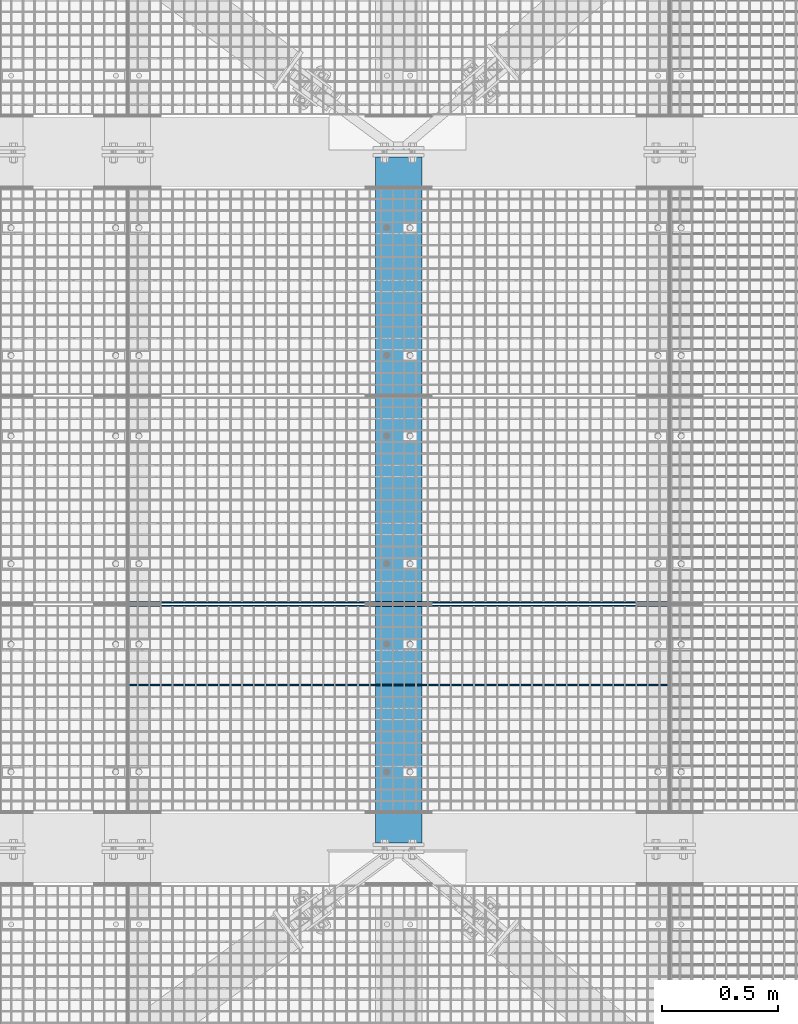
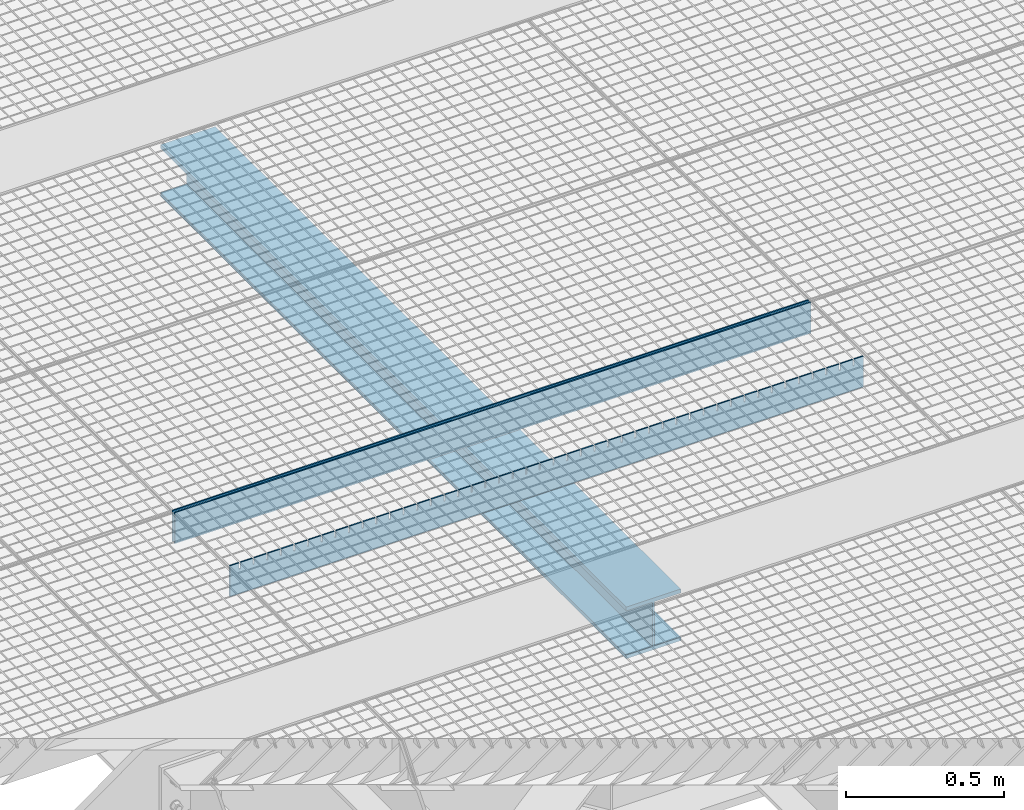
# One storey, part 352 of 1530: 4 beams.
"""IFC2X3 building model written with IfcOpenShell, lengths in millimetres."""

from ifc_helpers import new_model, si_unit, frame, origin_with_axes, place, context, subcontext, project, spatial, faceted_brep, material, type_object, element, save


model = new_model("IFC2X3")

# Units and contexts
model_context = context("Model", 3, precision=1e-05, world=origin_with_axes())
body_context = subcontext(model_context, "Body", "Model", "MODEL_VIEW")
ifc_project = project(units=[si_unit("LENGTHUNIT", "METRE", prefix="MILLI"), si_unit("AREAUNIT", "SQUARE_METRE"), si_unit("VOLUMEUNIT", "CUBIC_METRE"), si_unit("MASSUNIT", "GRAM", prefix="KILO"), si_unit("TIMEUNIT", "SECOND"), si_unit("PLANEANGLEUNIT", "RADIAN"), si_unit("SOLIDANGLEUNIT", "STERADIAN"), si_unit("THERMODYNAMICTEMPERATUREUNIT", "DEGREE_CELSIUS"), si_unit("LUMINOUSINTENSITYUNIT", "LUMEN")], contexts=[model_context])

# Site, building, storey
site_placement = place(None, origin_with_axes())
site = spatial("IfcSite", under=ifc_project, at=site_placement, Name="Brattvåg", CompositionType="ELEMENT")
building_placement = place(site_placement, origin_with_axes())
building = spatial("IfcBuilding", under=site, at=building_placement, Name="Undefined", CompositionType="ELEMENT")
storey_placement = place(building_placement, origin_with_axes())
storey = spatial("IfcBuildingStorey", under=building, at=storey_placement, Name="Undefined", CompositionType="ELEMENT", Elevation=0.0)

# Beams
ifc_material_1 = material(Name="STEEL/S355J2")
beam_type_1 = type_object("IfcBeamType", Name="120*5", PredefinedType="NOTDEFINED")
beam_1_placement = place(storey_placement, frame((5234.01317977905, 3702.99487304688, -59.9998626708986), z_axis=(0.0, 0.0, 1.0), x_axis=(-1.0, 1.99999855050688e-09, 0.0)))
element("IfcBeam", 1, at=beam_1_placement, inside=storey, type_object=beam_type_1, material=ifc_material_1, Name="GRATING", context=body_context, shape_type="Brep", body=[
    faceted_brep([(83.5790367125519, -2.50000000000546, 60.0000722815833), (83.5790367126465, -2.50000000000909, 35.0001373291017), (83.5790367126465, 2.50022888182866, 35.0001373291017), (83.5790367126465, 2.5, 60.0), (88.5790367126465, -2.50000000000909, 35.0001373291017), (88.5790367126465, 2.50022888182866, 35.0001373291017), (88.5790367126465, -2.50000000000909, 60.0001373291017), (88.5790367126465, 2.5, 60.0), (38.6284370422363, -2.50000000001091, 60.0001373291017), (38.6284370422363, 2.5, 60.0), (38.6284370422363, 2.49999999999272, 35.0001373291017), (38.6284370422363, -2.50000000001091, 35.0001373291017), (33.6284370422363, 2.49999999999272, 35.0001373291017), (33.6284370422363, -2.50000000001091, 35.0001373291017), (33.6284370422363, -2.5, 60.0), (33.6284370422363, 2.5, 60.0), (0.0, 2.5, 60.0), (0.0, -2.5, 60.0), (0.0, -2.5, -60.0), (0.0, 2.5, -60.0), (2319.99865722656, 2.5, -60.0), (2319.99865722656, -2.5, -60.0), (2319.99865722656, -2.5, 60.0), (2319.99865722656, 2.5, 60.0), (2286.37871932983, 2.5, 60.0), (2286.37871932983, -2.50000000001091, 60.0001373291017), (2286.37871932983, 2.49999999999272, 35.0001373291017), (2286.37871932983, -2.50000000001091, 35.0001373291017), (2281.37871932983, 2.49999999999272, 35.0001373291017), (2281.37871932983, -2.50000000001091, 35.0001373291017), (2281.37871932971, -2.50000000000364, 60.0000634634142), (2281.37871932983, 2.5, 60.0), (2236.42859649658, 2.5, 60.0), (2236.42859649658, -2.50000000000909, 60.0001373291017), (2236.42859649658, 2.50022888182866, 35.0001373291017), (2236.42859649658, -2.50000000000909, 35.0001373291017), (2231.42859649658, 2.50022888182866, 35.0001373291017), (2231.42859649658, -2.50000000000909, 35.0001373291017), (2231.42859649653, -2.50000000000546, 60.0000910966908), (2231.42859649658, 2.5, 60.0), (2186.47847366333, 2.5, 60.0), (2186.47847366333, -2.50000000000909, 60.0001373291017), (2186.47847366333, 2.50022888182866, 35.0001373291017), (2186.47847366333, -2.50000000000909, 35.0001373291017), (2181.47847366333, 2.50022888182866, 35.0001373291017), (2181.47847366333, -2.50000000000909, 35.0001373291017), (2181.47847366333, -2.5, 60.0), (2181.47847366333, 2.5, 60.0), (2136.52882766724, 2.5, 60.0), (2136.52882766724, -2.50000000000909, 60.0001373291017), (2136.52882766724, 2.50022888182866, 35.0001373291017), (2136.52882766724, -2.50000000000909, 35.0001373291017), (2131.52882766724, 2.50022888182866, 35.0001373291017), (2131.52882766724, -2.50000000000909, 35.0001373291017), (2131.52882766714, -2.50000000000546, 60.0000722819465), (2131.52882766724, 2.5, 60.0), (2086.57870483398, 2.5, 60.0), (2086.57870483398, -2.50000000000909, 60.0001373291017), (2086.57870483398, 2.50022888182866, 35.0001373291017), (2086.57870483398, -2.50000000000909, 35.0001373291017), (2081.57870483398, 2.50022888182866, 35.0001373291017), (2081.57870483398, -2.50000000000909, 35.0001373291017), (2081.57870483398, -2.5, 60.0), (2081.57870483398, 2.5, 60.0), (2036.62858200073, 2.5, 60.0), (2036.62858200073, -2.50000000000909, 60.0001373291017), (2036.62858200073, 2.50022888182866, 35.0001373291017), (2036.62858200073, -2.50000000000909, 35.0001373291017), (2031.62858200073, 2.50022888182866, 35.0001373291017), (2031.62858200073, -2.50000000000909, 35.0001373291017), (2031.62858200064, -2.50000000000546, 60.0000722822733), (2031.62858200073, 2.5, 60.0), (1986.67845916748, 2.5, 60.0), (1986.67845916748, -2.50000000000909, 60.0001373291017), (1986.67845916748, 2.50022888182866, 35.0001373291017), (1986.67845916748, -2.50000000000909, 35.0001373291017), (1981.67845916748, 2.50022888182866, 35.0001373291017), (1981.67845916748, -2.50000000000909, 35.0001373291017), (1981.67845916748, -2.5, 60.0), (1981.67845916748, 2.5, 60.0), (1936.72881317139, 2.5, 60.0), (1936.72881317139, -2.50000000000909, 60.0001373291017), (1936.72881317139, 2.50022888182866, 35.0001373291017), (1936.72881317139, -2.50000000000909, 35.0001373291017), (1931.72881317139, 2.50022888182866, 35.0001373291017), (1931.72881317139, -2.50000000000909, 35.0001373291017), (1931.72881317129, -2.50000000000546, 60.0000722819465), (1931.72881317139, 2.5, 60.0), (1886.77869033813, 2.5, 60.0), (1886.77869033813, -2.50000000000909, 60.0001373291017), (1886.77869033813, 2.50022888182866, 35.0001373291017), (1886.77869033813, -2.50000000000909, 35.0001373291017), (1881.77869033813, 2.50022888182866, 35.0001373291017), (1881.77869033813, -2.50000000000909, 35.0001373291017), (1881.77869033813, -2.5, 60.0), (1881.77869033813, 2.5, 60.0), (1836.82856750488, 2.5, 60.0), (1836.82856750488, -2.50000000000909, 60.0001373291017), (1836.82856750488, 2.50022888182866, 35.0001373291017), (1836.82856750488, -2.50000000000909, 35.0001373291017), (1831.82856750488, 2.50022888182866, 35.0001373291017), (1831.82856750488, -2.50000000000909, 35.0001373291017), (1831.82856750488, -2.5, 60.0), (1831.82856750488, 2.5, 60.0), (1786.87892150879, 2.5, 60.0), (1786.87892150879, -2.50000000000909, 60.0001373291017), (1786.87892150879, 2.50022888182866, 35.0001373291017), (1786.87892150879, -2.50000000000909, 35.0001373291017), (1781.87892150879, 2.50022888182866, 35.0001373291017), (1781.87892150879, -2.50000000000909, 35.0001373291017), (1781.87892150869, -2.50000000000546, 60.0000722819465), (1781.87892150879, 2.5, 60.0), (1736.92879867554, 2.5, 60.0), (1736.92879867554, -2.50000000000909, 60.0001373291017), (1736.92879867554, 2.50022888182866, 35.0001373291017), (1736.92879867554, -2.50000000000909, 35.0001373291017), (1731.92879867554, 2.50022888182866, 35.0001373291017), (1731.92879867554, -2.50000000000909, 35.0001373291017), (1731.92879867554, -2.5, 60.0), (1731.92879867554, 2.5, 60.0), (1686.97867584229, 2.5, 60.0), (1686.97867584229, -2.50000000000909, 60.0001373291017), (1686.97867584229, 2.50022888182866, 35.0001373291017), (1686.97867584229, -2.50000000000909, 35.0001373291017), (1681.97867584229, 2.50022888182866, 35.0001373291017), (1681.97867584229, -2.50000000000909, 35.0001373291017), (1681.97867584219, -2.50000000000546, 60.0000722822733), (1681.97867584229, 2.5, 60.0), (1637.02855300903, 2.5, 60.0), (1637.02855300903, -2.50000000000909, 60.0001373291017), (1637.02855300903, 2.50022888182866, 35.0001373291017), (1637.02855300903, -2.50000000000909, 35.0001373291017), (1632.02855300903, 2.50022888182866, 35.0001373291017), (1632.02855300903, -2.50000000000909, 35.0001373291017), (1632.02855300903, -2.5, 60.0), (1632.02855300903, 2.5, 60.0), (1587.07890701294, 2.5, 60.0), (1587.07890701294, -2.50000000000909, 60.0001373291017), (1587.07890701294, 2.50022888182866, 35.0001373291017), (1587.07890701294, -2.50000000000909, 35.0001373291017), (1582.07890701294, 2.50022888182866, 35.0001373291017), (1582.07890701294, -2.50000000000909, 35.0001373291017), (1582.07890701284, -2.50000000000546, 60.0000722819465), (1582.07890701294, 2.5, 60.0), (1537.12878417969, 2.5, 60.0), (1537.12878417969, -2.50000000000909, 60.0001373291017), (1537.12878417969, 2.50022888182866, 35.0001373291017), (1537.12878417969, -2.50000000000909, 35.0001373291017), (1532.12878417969, 2.50022888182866, 35.0001373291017), (1532.12878417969, -2.50000000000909, 35.0001373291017), (1532.12878417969, -2.5, 60.0), (1532.12878417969, 2.5, 60.0), (1487.17866134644, 2.5, 60.0), (1487.17866134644, -2.50000000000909, 60.0001373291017), (1487.17866134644, 2.50022888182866, 35.0001373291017), (1487.17866134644, -2.50000000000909, 35.0001373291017), (1482.17866134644, 2.50022888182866, 35.0001373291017), (1482.17866134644, -2.50000000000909, 35.0001373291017), (1482.17866134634, -2.50000000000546, 60.0000722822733), (1482.17866134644, 2.5, 60.0), (1437.22853851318, 2.5, 60.0), (1437.22853851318, -2.50000000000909, 60.0001373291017), (1437.22853851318, 2.50022888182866, 35.0001373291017), (1437.22853851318, -2.50000000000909, 35.0001373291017), (1432.22853851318, 2.50022888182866, 35.0001373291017), (1432.22853851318, -2.50000000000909, 35.0001373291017), (1432.22853851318, -2.5, 60.0), (1432.22853851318, 2.5, 60.0), (1387.27889251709, 2.5, 60.0), (1387.27889251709, -2.50000000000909, 60.0001373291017), (1387.27889251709, 2.50022888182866, 35.0001373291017), (1387.27889251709, -2.50000000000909, 35.0001373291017), (1382.27889251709, 2.50022888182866, 35.0001373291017), (1382.27889251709, -2.50000000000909, 35.0001373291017), (1382.278892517, -2.50000000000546, 60.0000722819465), (1382.27889251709, 2.5, 60.0), (1337.32876968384, 2.5, 60.0), (1337.32876968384, -2.50000000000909, 60.0001373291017), (1337.32876968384, 2.50022888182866, 35.0001373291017), (1337.32876968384, -2.50000000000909, 35.0001373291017), (1332.32876968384, 2.50022888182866, 35.0001373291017), (1332.32876968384, -2.50000000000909, 35.0001373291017), (1332.32876968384, -2.5, 60.0), (1332.32876968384, 2.5, 60.0), (1287.37864685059, 2.5, 60.0), (1287.37864685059, -2.50000000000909, 60.0001373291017), (1287.37864685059, 2.50022888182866, 35.0001373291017), (1287.37864685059, -2.50000000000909, 35.0001373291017), (1282.37864685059, 2.50022888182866, 35.0001373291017), (1282.37864685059, -2.50000000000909, 35.0001373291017), (1282.37864685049, -2.50000000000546, 60.0000722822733), (1282.37864685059, 2.5, 60.0), (1237.42852401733, 2.5, 60.0), (1237.42852401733, -2.50000000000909, 60.0001373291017), (1237.42852401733, 2.50022888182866, 35.0001373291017), (1237.42852401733, -2.50000000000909, 35.0001373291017), (1232.42852401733, 2.50022888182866, 35.0001373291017), (1232.42852401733, -2.50000000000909, 35.0001373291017), (1232.42852401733, -2.5, 60.0), (1232.42852401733, 2.5, 60.0), (1187.47887802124, 2.5, 60.0), (1187.47887802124, -2.50000000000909, 60.0001373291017), (1187.47887802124, 2.50022888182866, 35.0001373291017), (1187.47887802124, -2.50000000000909, 35.0001373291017), (1182.47887802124, 2.50022888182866, 35.0001373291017), (1182.47887802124, -2.50000000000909, 35.0001373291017), (1182.47887802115, -2.50000000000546, 60.0000722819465), (1182.47887802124, 2.5, 60.0), (1137.52875518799, 2.5, 60.0), (1137.52875518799, -2.50000000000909, 60.0001373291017), (1137.52875518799, 2.50022888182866, 35.0001373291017), (1137.52875518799, -2.50000000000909, 35.0001373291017), (1132.52875518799, 2.50022888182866, 35.0001373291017), (1132.52875518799, -2.50000000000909, 35.0001373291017), (1132.52875518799, -2.5, 60.0), (1132.52875518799, 2.5, 60.0), (1087.57863235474, 2.5, 60.0), (1087.57863235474, -2.50000000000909, 60.0001373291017), (1087.57863235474, 2.50022888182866, 35.0001373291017), (1087.57863235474, -2.50000000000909, 35.0001373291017), (1082.57863235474, 2.50022888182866, 35.0001373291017), (1082.57863235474, -2.50000000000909, 35.0001373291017), (1082.57863235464, -2.50000000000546, 60.0000722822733), (1082.57863235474, 2.5, 60.0), (1037.62850952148, 2.5, 60.0), (1037.62850952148, -2.50000000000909, 60.0001373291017), (1037.62850952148, 2.50022888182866, 35.0001373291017), (1037.62850952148, -2.50000000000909, 35.0001373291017), (1032.62850952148, 2.50022888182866, 35.0001373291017), (1032.62850952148, -2.50000000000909, 35.0001373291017), (1032.62850952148, -2.5, 60.0), (1032.62850952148, 2.5, 60.0), (987.678863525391, 2.5, 60.0), (987.678863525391, -2.50000000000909, 60.0001373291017), (987.678863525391, 2.50022888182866, 35.0001373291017), (987.678863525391, -2.50000000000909, 35.0001373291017), (982.678863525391, 2.50022888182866, 35.0001373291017), (982.678863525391, -2.50000000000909, 35.0001373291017), (982.678863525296, -2.50000000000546, 60.0000722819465), (982.678863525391, 2.5, 60.0), (937.728740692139, 2.5, 60.0), (937.728740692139, -2.50000000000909, 60.0001373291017), (937.728740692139, 2.50022888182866, 35.0001373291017), (937.728740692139, -2.50000000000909, 35.0001373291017), (932.728740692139, 2.50022888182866, 35.0001373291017), (932.728740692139, -2.50000000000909, 35.0001373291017), (932.728740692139, -2.5, 60.0), (932.728740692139, 2.5, 60.0), (887.778617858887, 2.5, 60.0), (887.778617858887, -2.50000000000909, 60.0001373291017), (887.778617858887, 2.50022888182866, 35.0001373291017), (887.778617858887, -2.50000000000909, 35.0001373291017), (882.778617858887, 2.50022888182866, 35.0001373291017), (882.778617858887, -2.50000000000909, 35.0001373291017), (882.778617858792, -2.50000000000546, 60.0000722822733), (882.778617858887, 2.5, 60.0), (837.828495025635, 2.5, 60.0), (837.828495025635, -2.50000000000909, 60.0001373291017), (837.828495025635, 2.50022888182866, 35.0001373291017), (837.828495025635, -2.50000000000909, 35.0001373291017), (832.828495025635, 2.50022888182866, 35.0001373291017), (832.828495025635, -2.50000000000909, 35.0001373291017), (832.828495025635, -2.5, 60.0), (832.828495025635, 2.5, 60.0), (787.878849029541, 2.5, 60.0), (787.878849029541, -2.50000000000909, 60.0001373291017), (787.878849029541, 2.50022888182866, 35.0001373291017), (787.878849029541, -2.50000000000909, 35.0001373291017), (782.878849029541, 2.50022888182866, 35.0001373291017), (782.878849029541, -2.50000000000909, 35.0001373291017), (782.878849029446, -2.50000000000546, 60.0000722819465), (782.878849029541, 2.5, 60.0), (737.928726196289, 2.5, 60.0), (737.928726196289, -2.50000000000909, 60.0001373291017), (737.928726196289, 2.50022888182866, 35.0001373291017), (737.928726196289, -2.50000000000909, 35.0001373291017), (732.928726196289, 2.50022888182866, 35.0001373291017), (732.928726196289, -2.50000000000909, 35.0001373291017), (732.928726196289, -2.5, 60.0), (732.928726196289, 2.5, 60.0), (687.978603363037, 2.5, 60.0), (687.978603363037, -2.50000000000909, 60.0001373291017), (687.978603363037, 2.50022888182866, 35.0001373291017), (687.978603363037, -2.50000000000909, 35.0001373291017), (682.978603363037, 2.50022888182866, 35.0001373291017), (682.978603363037, -2.50000000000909, 35.0001373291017), (682.978603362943, -2.50000000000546, 60.0000722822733), (682.978603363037, 2.5, 60.0), (638.028480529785, 2.5, 60.0), (638.028480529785, -2.50000000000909, 60.0001373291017), (638.028480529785, 2.50022888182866, 35.0001373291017), (638.028480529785, -2.50000000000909, 35.0001373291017), (633.028480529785, 2.50022888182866, 35.0001373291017), (633.028480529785, -2.50000000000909, 35.0001373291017), (633.028480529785, -2.5, 60.0), (633.028480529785, 2.5, 60.0), (588.078834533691, 2.5, 60.0), (588.078834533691, -2.50000000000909, 60.0001373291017), (588.078834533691, 2.50022888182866, 35.0001373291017), (588.078834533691, -2.50000000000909, 35.0001373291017), (583.078834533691, 2.50022888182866, 35.0001373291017), (583.078834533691, -2.50000000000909, 35.0001373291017), (583.078834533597, -2.50000000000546, 60.0000722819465), (583.078834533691, 2.5, 60.0), (538.128711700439, 2.5, 60.0), (538.128711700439, -2.50000000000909, 60.0001373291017), (538.128711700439, 2.50022888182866, 35.0001373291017), (538.128711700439, -2.50000000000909, 35.0001373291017), (533.128711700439, 2.50022888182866, 35.0001373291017), (533.128711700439, -2.50000000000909, 35.0001373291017), (533.128711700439, -2.5, 60.0), (533.128711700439, 2.5, 60.0), (488.178588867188, 2.5, 60.0), (488.178588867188, -2.50000000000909, 60.0001373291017), (488.178588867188, 2.50022888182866, 35.0001373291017), (488.178588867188, -2.50000000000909, 35.0001373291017), (483.178588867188, 2.50022888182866, 35.0001373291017), (483.178588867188, -2.50000000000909, 35.0001373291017), (483.178588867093, -2.50000000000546, 60.0000722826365), (483.178588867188, 2.5, 60.0), (438.228942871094, 2.5, 60.0), (438.228942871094, -2.50000000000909, 60.0001373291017), (438.228942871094, 2.50022888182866, 35.0001373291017), (438.228942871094, -2.50000000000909, 35.0001373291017), (433.228942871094, 2.50022888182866, 35.0001373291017), (433.228942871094, -2.50000000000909, 35.0001373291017), (433.228942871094, -2.5, 60.0), (433.228942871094, 2.5, 60.0), (388.278820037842, 2.5, 60.0), (388.278820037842, -2.50000000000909, 60.0001373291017), (388.278820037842, 2.50022888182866, 35.0001373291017), (388.278820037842, -2.50000000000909, 35.0001373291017), (383.278820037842, 2.50022888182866, 35.0001373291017), (383.278820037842, -2.50000000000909, 35.0001373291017), (383.278820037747, -2.50000000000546, 60.0000722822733), (383.278820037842, 2.5, 60.0), (338.32869720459, 2.5, 60.0), (338.32869720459, -2.50000000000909, 60.0001373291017), (338.32869720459, 2.50022888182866, 35.0001373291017), (338.32869720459, -2.50000000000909, 35.0001373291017), (333.32869720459, 2.50022888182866, 35.0001373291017), (333.32869720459, -2.50000000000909, 35.0001373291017), (333.32869720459, -2.5, 60.0), (333.32869720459, 2.5, 60.0), (288.378574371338, 2.5, 60.0), (288.378574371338, -2.50000000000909, 60.0001373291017), (288.378574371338, 2.50022888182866, 35.0001373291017), (288.378574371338, -2.50000000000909, 35.0001373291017), (283.378574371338, 2.50022888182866, 35.0001373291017), (283.378574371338, -2.50000000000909, 35.0001373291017), (283.378574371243, -2.50000000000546, 60.0000722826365), (283.378574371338, 2.5, 60.0), (238.428928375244, 2.5, 60.0), (238.428928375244, -2.50000000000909, 60.0001373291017), (238.428928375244, 2.50022888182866, 35.0001373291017), (238.428928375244, -2.50000000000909, 35.0001373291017), (233.428928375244, 2.50022888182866, 35.0001373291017), (233.428928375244, -2.50000000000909, 35.0001373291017), (233.428928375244, -2.5, 60.0), (233.428928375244, 2.5, 60.0), (188.478328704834, 2.5, 60.0), (188.478328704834, -2.50000000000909, 60.0001373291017), (188.478328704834, 2.50022888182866, 35.0001373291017), (188.478328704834, -2.50000000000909, 35.0001373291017), (183.478328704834, 2.50022888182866, 35.0001373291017), (183.478328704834, -2.50000000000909, 35.0001373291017), (183.478328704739, -2.50000000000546, 60.0000722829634), (183.478328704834, 2.5, 60.0), (138.52868270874, 2.5, 60.0), (138.52868270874, -2.50000000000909, 60.0001373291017), (138.52868270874, 2.50022888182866, 35.0001373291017), (138.52868270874, -2.50000000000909, 35.0001373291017), (133.52868270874, 2.50022888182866, 35.0001373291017), (133.52868270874, -2.50000000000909, 35.0001373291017), (133.52868270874, -2.5, 60.0), (133.52868270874, 2.5, 60.0)], [[[0, 1, 2, 3]], [[4, 5, 2, 1]], [[6, 7, 5, 4]], [[8, 9, 10, 11]], [[11, 10, 12, 13]], [[14, 13, 12, 15]], [[16, 17, 14, 15]], [[18, 17, 16, 19]], [[18, 19, 20, 21]], [[22, 21, 20, 23]], [[22, 23, 24, 25]], [[25, 24, 26, 27]], [[27, 26, 28, 29]], [[30, 29, 28, 31]], [[32, 33, 30, 31]], [[33, 32, 34, 35]], [[35, 34, 36, 37]], [[38, 37, 36, 39]], [[40, 41, 38, 39]], [[41, 40, 42, 43]], [[43, 42, 44, 45]], [[46, 45, 44, 47]], [[46, 47, 48, 49]], [[49, 48, 50, 51]], [[51, 50, 52, 53]], [[54, 53, 52, 55]], [[56, 57, 54, 55]], [[57, 56, 58, 59]], [[59, 58, 60, 61]], [[62, 61, 60, 63]], [[62, 63, 64, 65]], [[65, 64, 66, 67]], [[67, 66, 68, 69]], [[70, 69, 68, 71]], [[72, 73, 70, 71]], [[73, 72, 74, 75]], [[75, 74, 76, 77]], [[78, 77, 76, 79]], [[78, 79, 80, 81]], [[81, 80, 82, 83]], [[83, 82, 84, 85]], [[86, 85, 84, 87]], [[88, 89, 86, 87]], [[89, 88, 90, 91]], [[91, 90, 92, 93]], [[94, 93, 92, 95]], [[94, 95, 96, 97]], [[97, 96, 98, 99]], [[99, 98, 100, 101]], [[102, 101, 100, 103]], [[102, 103, 104, 105]], [[105, 104, 106, 107]], [[107, 106, 108, 109]], [[110, 109, 108, 111]], [[112, 113, 110, 111]], [[113, 112, 114, 115]], [[115, 114, 116, 117]], [[118, 117, 116, 119]], [[118, 119, 120, 121]], [[121, 120, 122, 123]], [[123, 122, 124, 125]], [[126, 125, 124, 127]], [[128, 129, 126, 127]], [[129, 128, 130, 131]], [[131, 130, 132, 133]], [[134, 133, 132, 135]], [[134, 135, 136, 137]], [[137, 136, 138, 139]], [[139, 138, 140, 141]], [[142, 141, 140, 143]], [[144, 145, 142, 143]], [[145, 144, 146, 147]], [[147, 146, 148, 149]], [[150, 149, 148, 151]], [[150, 151, 152, 153]], [[153, 152, 154, 155]], [[155, 154, 156, 157]], [[158, 157, 156, 159]], [[160, 161, 158, 159]], [[161, 160, 162, 163]], [[163, 162, 164, 165]], [[166, 165, 164, 167]], [[166, 167, 168, 169]], [[169, 168, 170, 171]], [[171, 170, 172, 173]], [[174, 173, 172, 175]], [[176, 177, 174, 175]], [[177, 176, 178, 179]], [[179, 178, 180, 181]], [[182, 181, 180, 183]], [[182, 183, 184, 185]], [[185, 184, 186, 187]], [[187, 186, 188, 189]], [[190, 189, 188, 191]], [[192, 193, 190, 191]], [[193, 192, 194, 195]], [[195, 194, 196, 197]], [[198, 197, 196, 199]], [[198, 199, 200, 201]], [[201, 200, 202, 203]], [[203, 202, 204, 205]], [[206, 205, 204, 207]], [[208, 209, 206, 207]], [[209, 208, 210, 211]], [[211, 210, 212, 213]], [[214, 213, 212, 215]], [[214, 215, 216, 217]], [[217, 216, 218, 219]], [[219, 218, 220, 221]], [[222, 221, 220, 223]], [[224, 225, 222, 223]], [[225, 224, 226, 227]], [[227, 226, 228, 229]], [[230, 229, 228, 231]], [[230, 231, 232, 233]], [[233, 232, 234, 235]], [[235, 234, 236, 237]], [[238, 237, 236, 239]], [[240, 241, 238, 239]], [[241, 240, 242, 243]], [[243, 242, 244, 245]], [[246, 245, 244, 247]], [[246, 247, 248, 249]], [[249, 248, 250, 251]], [[251, 250, 252, 253]], [[254, 253, 252, 255]], [[256, 257, 254, 255]], [[257, 256, 258, 259]], [[259, 258, 260, 261]], [[262, 261, 260, 263]], [[262, 263, 264, 265]], [[265, 264, 266, 267]], [[267, 266, 268, 269]], [[270, 269, 268, 271]], [[272, 273, 270, 271]], [[273, 272, 274, 275]], [[275, 274, 276, 277]], [[278, 277, 276, 279]], [[278, 279, 280, 281]], [[281, 280, 282, 283]], [[283, 282, 284, 285]], [[286, 285, 284, 287]], [[288, 289, 286, 287]], [[289, 288, 290, 291]], [[291, 290, 292, 293]], [[294, 293, 292, 295]], [[294, 295, 296, 297]], [[297, 296, 298, 299]], [[299, 298, 300, 301]], [[302, 301, 300, 303]], [[304, 305, 302, 303]], [[305, 304, 306, 307]], [[307, 306, 308, 309]], [[310, 309, 308, 311]], [[310, 311, 312, 313]], [[313, 312, 314, 315]], [[315, 314, 316, 317]], [[318, 317, 316, 319]], [[320, 321, 318, 319]], [[321, 320, 322, 323]], [[323, 322, 324, 325]], [[326, 325, 324, 327]], [[326, 327, 328, 329]], [[329, 328, 330, 331]], [[331, 330, 332, 333]], [[334, 333, 332, 335]], [[336, 337, 334, 335]], [[337, 336, 338, 339]], [[339, 338, 340, 341]], [[342, 341, 340, 343]], [[342, 343, 344, 345]], [[345, 344, 346, 347]], [[347, 346, 348, 349]], [[350, 349, 348, 351]], [[352, 353, 350, 351]], [[353, 352, 354, 355]], [[355, 354, 356, 357]], [[358, 357, 356, 359]], [[358, 359, 360, 361]], [[361, 360, 362, 363]], [[363, 362, 364, 365]], [[366, 365, 364, 367]], [[368, 369, 366, 367]], [[369, 368, 370, 371]], [[371, 370, 372, 373]], [[374, 373, 372, 375]], [[1, 0, 8, 11, 13, 14, 17, 18, 21, 22, 25, 27, 29, 30, 33, 35, 37, 38, 41, 43, 45, 46, 49, 51, 53, 54, 57, 59, 61, 62, 65, 67, 69, 70, 73, 75, 77, 78, 81, 83, 85, 86, 89, 91, 93, 94, 97, 99, 101, 102, 105, 107, 109, 110, 113, 115, 117, 118, 121, 123, 125, 126, 129, 131, 133, 134, 137, 139, 141, 142, 145, 147, 149, 150, 153, 155, 157, 158, 161, 163, 165, 166, 169, 171, 173, 174, 177, 179, 181, 182, 185, 187, 189, 190, 193, 195, 197, 198, 201, 203, 205, 206, 209, 211, 213, 214, 217, 219, 221, 222, 225, 227, 229, 230, 233, 235, 237, 238, 241, 243, 245, 246, 249, 251, 253, 254, 257, 259, 261, 262, 265, 267, 269, 270, 273, 275, 277, 278, 281, 283, 285, 286, 289, 291, 293, 294, 297, 299, 301, 302, 305, 307, 309, 310, 313, 315, 317, 318, 321, 323, 325, 326, 329, 331, 333, 334, 337, 339, 341, 342, 345, 347, 349, 350, 353, 355, 357, 358, 361, 363, 365, 366, 369, 371, 373, 374, 6, 4]], [[9, 8, 0, 3]], [[375, 372, 370, 368, 367, 364, 362, 360, 359, 356, 354, 352, 351, 348, 346, 344, 343, 340, 338, 336, 335, 332, 330, 328, 327, 324, 322, 320, 319, 316, 314, 312, 311, 308, 306, 304, 303, 300, 298, 296, 295, 292, 290, 288, 287, 284, 282, 280, 279, 276, 274, 272, 271, 268, 266, 264, 263, 260, 258, 256, 255, 252, 250, 248, 247, 244, 242, 240, 239, 236, 234, 232, 231, 228, 226, 224, 223, 220, 218, 216, 215, 212, 210, 208, 207, 204, 202, 200, 199, 196, 194, 192, 191, 188, 186, 184, 183, 180, 178, 176, 175, 172, 170, 168, 167, 164, 162, 160, 159, 156, 154, 152, 151, 148, 146, 144, 143, 140, 138, 136, 135, 132, 130, 128, 127, 124, 122, 120, 119, 116, 114, 112, 111, 108, 106, 104, 103, 100, 98, 96, 95, 92, 90, 88, 87, 84, 82, 80, 79, 76, 74, 72, 71, 68, 66, 64, 63, 60, 58, 56, 55, 52, 50, 48, 47, 44, 42, 40, 39, 36, 34, 32, 31, 28, 26, 24, 23, 20, 19, 16, 15, 12, 10, 9, 3, 2, 5, 7]], [[374, 375, 7, 6]]]),
])
for number, where, z_axis, x_axis, name in (
    (2, (5239.00899291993, 4044.49917602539, -59.9998626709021), (0.0, 0.0, 1.0), (-1.0, 1.99999855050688e-09, 0.0), "GRATING"),
    (3, (2909.01067138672, 4058.49868774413, -59.9998626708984), (0.0, 0.0, 1.0), (1.0, 0.0, 0.0), "GRATING"),
):
    element("IfcBeam", number, at=place(storey_placement, frame(where, z_axis=z_axis, x_axis=x_axis)), inside=storey, type_object=beam_type_1, material=ifc_material_1, Name=name, context=body_context, shape_type="Brep", body=[
        faceted_brep([(0.0, 2.5, -60.0), (0.0, 2.5, 60.0), (2329.99832153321, 2.5, 60.0), (2329.99832153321, 2.5, -60.0), (0.0, -2.5, 60.0), (2329.99832153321, -2.5, 60.0), (0.0, -2.5, -60.0), (2329.99832153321, -2.5, -60.0)], [[[0, 1, 2, 3]], [[1, 4, 5, 2]], [[4, 6, 7, 5]], [[6, 0, 3, 7]], [[5, 7, 3, 2]], [[6, 4, 1, 0]]]),
    ])
ifc_material_2 = material(Name="STEEL/S355J2+N")
beam_type_2 = type_object("IfcBeamType", Name="HEB200", PredefinedType="NOTDEFINED")
beam_2_placement = place(storey_placement, frame((4074.00112915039, 3023.00155639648, -219.998931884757), z_axis=(0.0, 0.0, 1.0), x_axis=(0.0, 1.0, 0.0)))
element("IfcBeam", 4, at=beam_2_placement, inside=storey, type_object=beam_type_2, material=ifc_material_2, Name="STÅLBJELKE", context=body_context, shape_type="Brep", body=[
    faceted_brep([(0.0, 100.0, -100.0), (0.0, 100.0, -85.0), (2953.99993896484, 100.0, -85.0), (2953.99993896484, 100.0, -100.0), (0.0, 4.5, -85.0), (2953.99993896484, 4.5, -85.0), (0.0, 4.5, 85.0), (2953.99993896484, 4.5, 85.0), (0.0, 100.0, 85.0), (2953.99993896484, 100.0, 85.0), (0.0, 100.0, 100.0), (2953.99993896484, 100.0, 100.0), (0.0, -100.0, 100.0), (2953.99993896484, -100.0, 100.0), (0.0, -100.0, 85.0), (2953.99993896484, -100.0, 85.0), (0.0, -4.5, 85.0), (2953.99993896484, -4.5, 85.0), (0.0, -4.5, -85.0), (2953.99993896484, -4.5, -85.0), (0.0, -100.0, -85.0), (2953.99993896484, -100.0, -85.0), (0.0, -100.0, -100.0), (2953.99993896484, -100.0, -100.0)], [[[0, 1, 2, 3]], [[1, 4, 5, 2]], [[4, 6, 7, 5]], [[6, 8, 9, 7]], [[8, 10, 11, 9]], [[10, 12, 13, 11]], [[12, 14, 15, 13]], [[14, 16, 17, 15]], [[16, 18, 19, 17]], [[18, 20, 21, 19]], [[20, 22, 23, 21]], [[22, 0, 3, 23]], [[5, 7, 9, 11, 13, 15, 17, 19, 21, 23, 3, 2]], [[22, 20, 18, 16, 14, 12, 10, 8, 6, 4, 1, 0]]]),
])

save(model, "model.ifc")
